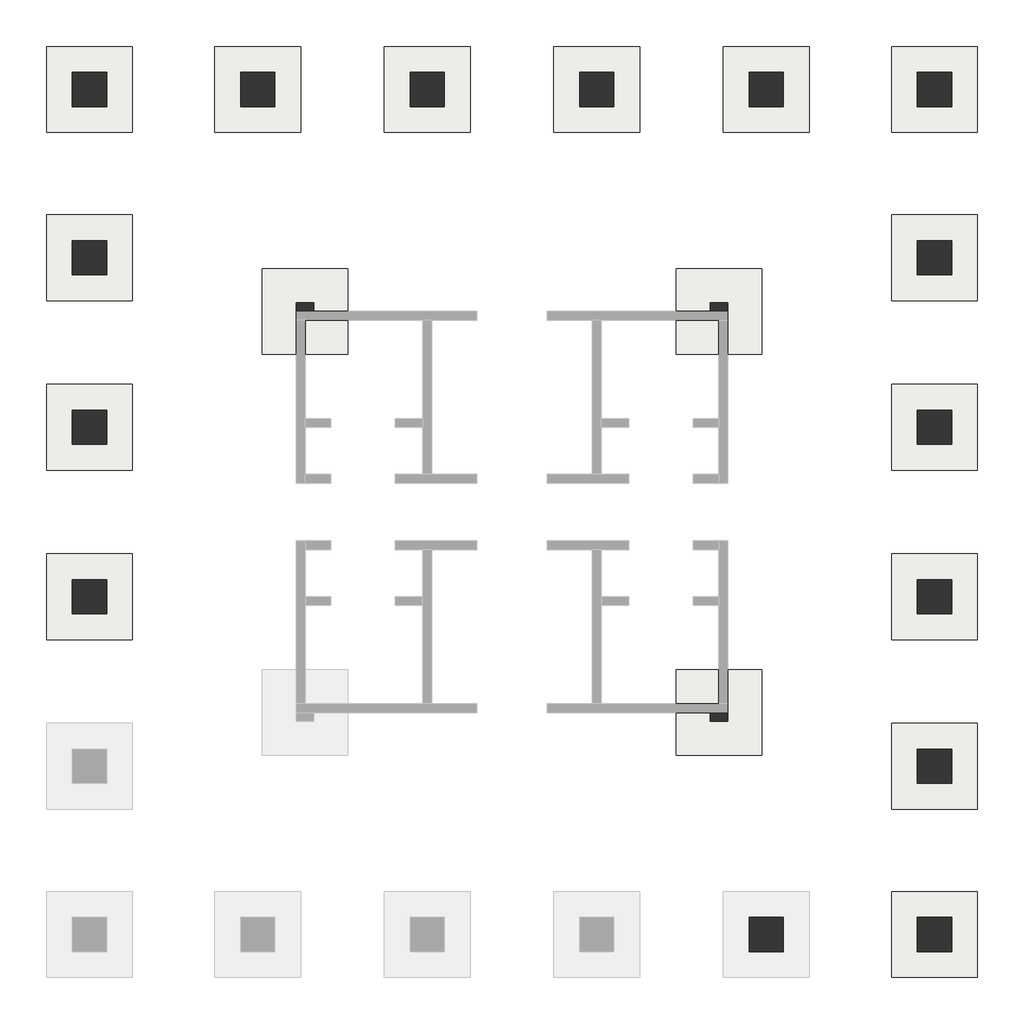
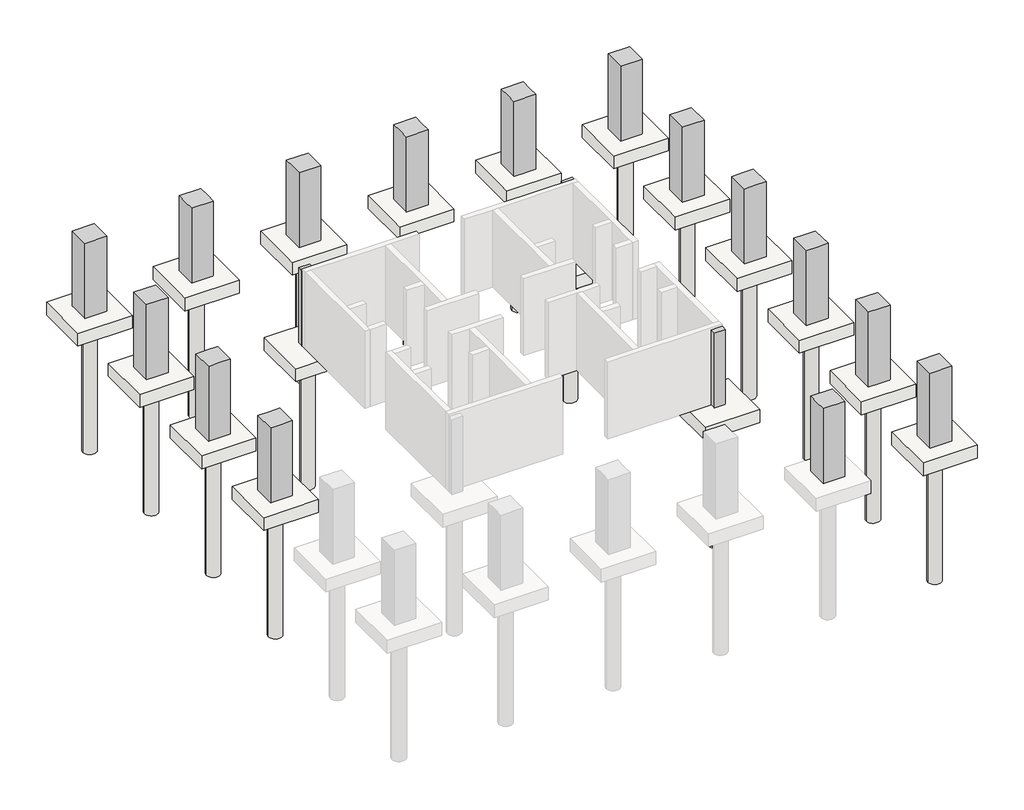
# One storey, part 2 of 2: 34 slabs, 18 columns.
"""IFC4 building model written with IfcOpenShell, lengths in millimetres."""

from ifc_helpers import new_model, si_unit, point, frame, frame_2d, origin, place, context, project, spatial, polyline, circle_curve, trimmed, segment, composite_curve, outline, extrude, faceted_brep, element, save

model = new_model("IFC4")

# Units and contexts
model_context = context("Model", 3, world=origin())
ifc_project = project(units=[si_unit("LENGTHUNIT", "METRE", prefix="MILLI")], contexts=[model_context])

# Site, building, storey
site = spatial("IfcSite", under=ifc_project)
building = spatial("IfcBuilding", under=site)
storey = spatial("IfcBuildingStorey", under=building, Name="基础顶面", Elevation=-2000.0)

# Columns
placement = place(None, origin())
element("IfcColumn", 1, ObjectType="混凝土 - 矩形 - 柱 : Z1-1600x1600", at=placement, inside=storey, context=model_context, shape_type="SweptSolid", body=[
    extrude(outline(polyline([(-12472.6742169, 27051.0498658), (-12472.6742169, 25451.0498658), (-14072.6742169, 25451.0498658), (-14072.6742169, 27051.0498658), (-12472.6742169, 27051.0498658)])), frame((0.0, 0.0, -2000.0), z_axis=(0.0, 0.0, 1.0), x_axis=(1.0, 0.0, 0.0)), (0.0, 0.0, 1.0), 5840.0),
])
element("IfcColumn", 2, ObjectType="混凝土 - 矩形 - 柱 : Z1-1600x1600", at=placement, inside=storey, context=model_context, shape_type="Brep", body=[
    faceted_brep([(-4622.6742169, 27051.0498658, -2000.0), (-4622.6742169, 25451.0498658, -2000.0), (-6222.6742169, 25451.0498658, -2000.0), (-6222.6742169, 27051.0498658, -2000.0), (-4622.6742169, 27051.0498658, 3000.0), (-4622.6742169, 27051.0498658, 3840.0), (-4622.6742169, 26251.0498658, 3840.0), (-4622.6742169, 25451.0498658, 3840.0), (-6222.6742169, 25451.0498658, 3840.0), (-6222.6742169, 26251.0498658, 3840.0), (-6222.6742169, 27051.0498658, 3840.0), (-6222.6742169, 27051.0498658, 3000.0)], [[[0, 1, 2, 3]], [[1, 0, 4, 5, 6, 7]], [[2, 1, 7, 8]], [[3, 2, 8, 9, 10, 11]], [[0, 3, 11, 10, 5, 4]], [[7, 6, 5, 10, 9, 8]]]),
])
element("IfcColumn", 3, ObjectType="混凝土 - 矩形 - 柱 : Z1-1600x1600", at=placement, inside=storey, context=model_context, shape_type="Brep", body=[
    faceted_brep([(-12472.6742169, 19201.0498658, -2000.0), (-12472.6742169, 17601.0498658, -2000.0), (-14072.6742169, 17601.0498658, -2000.0), (-14072.6742169, 19201.0498658, -2000.0), (-12472.6742169, 19201.0498658, 3840.0), (-12472.6742169, 17601.0498658, 3840.0), (-13272.6742169, 17601.0498658, 3840.0), (-14072.6742169, 17601.0498658, 3840.0), (-14072.6742169, 17601.0498658, 3000.0), (-14072.6742169, 19201.0498658, 3840.0), (-14072.6742169, 19201.0498658, 3000.0), (-13272.6742169, 19201.0498658, 3840.0)], [[[0, 1, 2, 3]], [[1, 0, 4, 5]], [[2, 1, 5, 6, 7, 8]], [[3, 2, 8, 7, 9, 10]], [[0, 3, 10, 9, 11, 4]], [[5, 4, 11, 9, 7, 6]]]),
])
element("IfcColumn", 4, ObjectType="混凝土 - 矩形 - 柱 : Z1-1600x1600", at=placement, inside=storey, context=model_context, shape_type="Brep", body=[
    faceted_brep([(-12472.6742169, 11301.0498658, -2000.0), (-12472.6742169, 9701.0498658, -2000.0), (-14072.6742169, 9701.0498658, -2000.0), (-14072.6742169, 11301.0498658, -2000.0), (-12472.6742169, 11301.0498658, 3840.0), (-12472.6742169, 9701.0498658, 3840.0), (-13272.6742169, 9701.0498658, 3840.0), (-14072.6742169, 9701.0498658, 3840.0), (-14072.6742169, 9701.0498658, 3000.0), (-14072.6742169, 11301.0498658, 3840.0), (-14072.6742169, 11301.0498658, 3000.0), (-13272.6742169, 11301.0498658, 3840.0)], [[[0, 1, 2, 3]], [[1, 0, 4, 5]], [[2, 1, 5, 6, 7, 8]], [[3, 2, 8, 7, 9, 10]], [[0, 3, 10, 9, 11, 4]], [[5, 4, 11, 9, 7, 6]]]),
])
element("IfcColumn", 5, ObjectType="混凝土 - 矩形 - 柱 : Z1-1600x1600", at=placement, inside=storey, context=model_context, shape_type="Brep", body=[
    faceted_brep([(-12472.6742169, 3401.0498658, -2000.0), (-12472.6742169, 1801.0498658, -2000.0), (-14072.6742169, 1801.0498658, -2000.0), (-14072.6742169, 3401.0498658, -2000.0), (-12472.6742169, 3401.0498658, 3840.0), (-12472.6742169, 1801.0498658, 3840.0), (-13272.6742169, 1801.0498658, 3840.0), (-14072.6742169, 1801.0498658, 3840.0), (-14072.6742169, 1801.0498658, 3000.0), (-14072.6742169, 3401.0498658, 3840.0), (-14072.6742169, 3401.0498658, 3000.0), (-13272.6742169, 3401.0498658, 3840.0)], [[[0, 1, 2, 3]], [[1, 0, 4, 5]], [[2, 1, 5, 6, 7, 8]], [[3, 2, 8, 7, 9, 10]], [[0, 3, 10, 9, 11, 4]], [[5, 4, 11, 9, 7, 6]]]),
])
element("IfcColumn", 6, ObjectType="混凝土 - 矩形 - 柱 : Z1-1600x1600", at=placement, inside=storey, context=model_context, shape_type="SweptSolid", body=[
    extrude(outline(polyline([(25327.3257831, 27051.0498658), (26927.3257831, 27051.0498658), (26927.3257831, 25451.0498658), (25327.3257831, 25451.0498658), (25327.3257831, 27051.0498658)])), frame((0.0, 0.0, -2000.0), z_axis=(0.0, 0.0, 1.0), x_axis=(1.0, 0.0, 0.0)), (0.0, 0.0, 1.0), 5840.0),
])
element("IfcColumn", 7, ObjectType="混凝土 - 矩形 - 柱 : Z1-1600x1600", at=placement, inside=storey, context=model_context, shape_type="Brep", body=[
    faceted_brep([(25327.3257831, 19201.0498658, -2000.0), (26927.3257831, 19201.0498658, -2000.0), (26927.3257831, 17601.0498658, -2000.0), (25327.3257831, 17601.0498658, -2000.0), (25327.3257831, 17601.0498658, 3840.0), (25327.3257831, 19201.0498658, 3840.0), (26927.3257831, 17601.0498658, 3000.0), (26927.3257831, 17601.0498658, 3840.0), (26127.3257831, 17601.0498658, 3840.0), (26927.3257831, 19201.0498658, 3000.0), (26927.3257831, 19201.0498658, 3840.0), (26127.3257831, 19201.0498658, 3840.0)], [[[0, 1, 2, 3]], [[0, 3, 4, 5]], [[3, 2, 6, 7, 8, 4]], [[2, 1, 9, 10, 7, 6]], [[1, 0, 5, 11, 10, 9]], [[5, 4, 8, 7, 10, 11]]]),
])
element("IfcColumn", 8, ObjectType="混凝土 - 矩形 - 柱 : Z1-1600x1600", at=placement, inside=storey, context=model_context, shape_type="Brep", body=[
    faceted_brep([(25327.3257831, 11301.0498658, -2000.0), (26927.3257831, 11301.0498658, -2000.0), (26927.3257831, 9701.0498658, -2000.0), (25327.3257831, 9701.0498658, -2000.0), (25327.3257831, 9701.0498658, 3840.0), (25327.3257831, 11301.0498658, 3840.0), (26927.3257831, 9701.0498658, 3000.0), (26927.3257831, 9701.0498658, 3840.0), (26127.3257831, 9701.0498658, 3840.0), (26927.3257831, 11301.0498658, 3000.0), (26927.3257831, 11301.0498658, 3840.0), (26127.3257831, 11301.0498658, 3840.0)], [[[0, 1, 2, 3]], [[0, 3, 4, 5]], [[3, 2, 6, 7, 8, 4]], [[2, 1, 9, 10, 7, 6]], [[1, 0, 5, 11, 10, 9]], [[5, 4, 8, 7, 10, 11]]]),
])
element("IfcColumn", 9, ObjectType="混凝土 - 矩形 - 柱 : Z1-1600x1600", at=placement, inside=storey, context=model_context, shape_type="Brep", body=[
    faceted_brep([(25327.3257831, 3401.0498658, -2000.0), (26927.3257831, 3401.0498658, -2000.0), (26927.3257831, 1801.0498658, -2000.0), (25327.3257831, 1801.0498658, -2000.0), (25327.3257831, 1801.0498658, 3840.0), (25327.3257831, 3401.0498658, 3840.0), (26927.3257831, 1801.0498658, 3000.0), (26927.3257831, 1801.0498658, 3840.0), (26127.3257831, 1801.0498658, 3840.0), (26927.3257831, 3401.0498658, 3000.0), (26927.3257831, 3401.0498658, 3840.0), (26127.3257831, 3401.0498658, 3840.0)], [[[0, 1, 2, 3]], [[0, 3, 4, 5]], [[3, 2, 6, 7, 8, 4]], [[2, 1, 9, 10, 7, 6]], [[1, 0, 5, 11, 10, 9]], [[5, 4, 8, 7, 10, 11]]]),
])
element("IfcColumn", 10, ObjectType="混凝土 - 矩形 - 柱 : Z1-1600x1600", at=placement, inside=storey, context=model_context, shape_type="Brep", body=[
    faceted_brep([(25327.3257831, -4498.9501342, -2000.0), (26927.3257831, -4498.9501342, -2000.0), (26927.3257831, -6098.9501342, -2000.0), (25327.3257831, -6098.9501342, -2000.0), (25327.3257831, -6098.9501342, 3840.0), (25327.3257831, -4498.9501342, 3840.0), (26927.3257831, -6098.9501342, 3000.0), (26927.3257831, -6098.9501342, 3840.0), (26127.3257831, -6098.9501342, 3840.0), (26927.3257831, -4498.9501342, 3000.0), (26927.3257831, -4498.9501342, 3840.0), (26127.3257831, -4498.9501342, 3840.0)], [[[0, 1, 2, 3]], [[0, 3, 4, 5]], [[3, 2, 6, 7, 8, 4]], [[2, 1, 9, 10, 7, 6]], [[1, 0, 5, 11, 10, 9]], [[5, 4, 8, 7, 10, 11]]]),
])
element("IfcColumn", 11, ObjectType="混凝土 - 矩形 - 柱 : Z1-1600x1600", at=placement, inside=storey, context=model_context, shape_type="Brep", body=[
    faceted_brep([(25327.3257831, -12348.9501342, -2000.0), (26927.3257831, -12348.9501342, -2000.0), (26927.3257831, -13948.9501342, -2000.0), (25327.3257831, -13948.9501342, -2000.0), (25327.3257831, -13948.9501342, 3840.0), (25327.3257831, -12348.9501342, 3840.0), (26927.3257831, -13948.9501342, 3840.0), (26927.3257831, -12348.9501342, 3840.0), (26927.3257831, -13935.2672073, 3840.0)], [[[0, 1, 2, 3]], [[0, 3, 4, 5]], [[3, 2, 6, 4]], [[2, 1, 7, 8, 6]], [[1, 0, 5, 7]], [[5, 4, 6, 8, 7]]]),
])
element("IfcColumn", 12, ObjectType="混凝土 - 矩形 - 柱 : Z1-1600x1600", at=placement, inside=storey, context=model_context, shape_type="Brep", body=[
    faceted_brep([(3277.3257831, 27051.0498658, -2000.0), (3277.3257831, 25451.0498658, -2000.0), (1677.3257831, 25451.0498658, -2000.0), (1677.3257831, 27051.0498658, -2000.0), (3277.3257831, 27051.0498658, 3000.0), (3277.3257831, 27051.0498658, 3840.0), (3277.3257831, 26251.0498658, 3840.0), (3277.3257831, 25451.0498658, 3840.0), (1677.3257831, 25451.0498658, 3840.0), (1677.3257831, 26251.0498658, 3840.0), (1677.3257831, 27051.0498658, 3840.0), (1677.3257831, 27051.0498658, 3000.0)], [[[0, 1, 2, 3]], [[1, 0, 4, 5, 6, 7]], [[2, 1, 7, 8]], [[3, 2, 8, 9, 10, 11]], [[0, 3, 11, 10, 5, 4]], [[7, 6, 5, 10, 9, 8]]]),
])
element("IfcColumn", 13, ObjectType="混凝土 - 矩形 - 柱 : Z1-1600x1600", at=placement, inside=storey, context=model_context, shape_type="Brep", body=[
    faceted_brep([(11177.3257831, 27051.0498658, -2000.0), (11177.3257831, 25451.0498658, -2000.0), (9577.3257831, 25451.0498658, -2000.0), (9577.3257831, 27051.0498658, -2000.0), (11177.3257831, 27051.0498658, 3000.0), (11177.3257831, 27051.0498658, 3840.0), (11177.3257831, 26251.0498658, 3840.0), (11177.3257831, 25451.0498658, 3840.0), (9577.3257831, 25451.0498658, 3840.0), (9577.3257831, 26251.0498658, 3840.0), (9577.3257831, 27051.0498658, 3840.0), (9577.3257831, 27051.0498658, 3000.0)], [[[0, 1, 2, 3]], [[1, 0, 4, 5, 6, 7]], [[2, 1, 7, 8]], [[3, 2, 8, 9, 10, 11]], [[0, 3, 11, 10, 5, 4]], [[7, 6, 5, 10, 9, 8]]]),
])
element("IfcColumn", 14, ObjectType="混凝土 - 矩形 - 柱 : Z1-1600x1600", at=placement, inside=storey, context=model_context, shape_type="Brep", body=[
    faceted_brep([(19077.3257831, 27051.0498658, -2000.0), (19077.3257831, 25451.0498658, -2000.0), (17477.3257831, 25451.0498658, -2000.0), (17477.3257831, 27051.0498658, -2000.0), (19077.3257831, 27051.0498658, 3000.0), (19077.3257831, 27051.0498658, 3840.0), (19077.3257831, 26251.0498658, 3840.0), (19077.3257831, 25451.0498658, 3840.0), (17477.3257831, 25451.0498658, 3840.0), (17477.3257831, 26251.0498658, 3840.0), (17477.3257831, 27051.0498658, 3840.0), (17477.3257831, 27051.0498658, 3000.0)], [[[0, 1, 2, 3]], [[1, 0, 4, 5, 6, 7]], [[2, 1, 7, 8]], [[3, 2, 8, 9, 10, 11]], [[0, 3, 11, 10, 5, 4]], [[7, 6, 5, 10, 9, 8]]]),
])
element("IfcColumn", 15, ObjectType="混凝土 - 矩形 - 柱 : Z1-1600x1600", at=placement, inside=storey, context=model_context, shape_type="Brep", body=[
    faceted_brep([(19077.3257831, -12348.9501342, -2000.0), (19077.3257831, -13948.9501342, -2000.0), (17477.3257831, -13948.9501342, -2000.0), (17477.3257831, -12348.9501342, -2000.0), (19077.3257831, -12348.9501342, 3840.0), (19077.3257831, -13148.9501342, 3840.0), (19077.3257831, -13948.9501342, 3840.0), (19077.3257831, -13948.9501342, 3000.0), (17477.3257831, -13948.9501342, 3840.0), (17477.3257831, -13948.9501342, 3000.0), (17477.3257831, -13148.9501342, 3840.0), (17477.3257831, -12348.9501342, 3840.0)], [[[0, 1, 2, 3]], [[1, 0, 4, 5, 6, 7]], [[2, 1, 7, 6, 8, 9]], [[3, 2, 9, 8, 10, 11]], [[0, 3, 11, 4]], [[6, 5, 4, 11, 10, 8]]]),
])
element("IfcColumn", 16, ObjectType="混凝土 - 矩形 - 柱 : Z2-800x800", at=placement, inside=storey, context=model_context, shape_type="SweptSolid", body=[
    extrude(outline(polyline([(-3622.6742169, 16301.0498658), (-2822.6742169, 16301.0498658), (-2822.6742169, 15901.0498658), (-3622.6742169, 15901.0498658), (-3622.6742169, 16301.0498658)])), frame((0.0, 0.0, -2000.0), z_axis=(0.0, 0.0, 1.0), x_axis=(1.0, 0.0, 0.0)), (0.0, 0.0, 1.0), 5840.0),
])
element("IfcColumn", 17, ObjectType="混凝土 - 矩形 - 柱 : Z2-800x800", at=placement, inside=storey, context=model_context, shape_type="SweptSolid", body=[
    extrude(outline(polyline([(16477.3257831, -3198.9501342), (15677.3257831, -3198.9501342), (15677.3257831, -2798.9501342), (16477.3257831, -2798.9501342), (16477.3257831, -3198.9501342)])), frame((0.0, 0.0, -2000.0), z_axis=(0.0, 0.0, 1.0), x_axis=(1.0, 0.0, 0.0)), (0.0, 0.0, 1.0), 5840.0),
])
element("IfcColumn", 18, ObjectType="混凝土 - 矩形 - 柱 : Z2-800x800", at=placement, inside=storey, context=model_context, shape_type="SweptSolid", body=[
    extrude(outline(polyline([(15677.3257831, 16301.0498658), (16477.3257831, 16301.0498658), (16477.3257831, 15901.0498658), (15677.3257831, 15901.0498658), (15677.3257831, 16301.0498658)])), frame((0.0, 0.0, -2000.0), z_axis=(0.0, 0.0, 1.0), x_axis=(1.0, 0.0, 0.0)), (0.0, 0.0, 1.0), 5840.0),
])

# Slabs
element("IfcSlab", 19, ObjectType="独立基础 : 基础-4000x4000x1000", at=placement, inside=storey, context=model_context, shape_type="SweptSolid", body=[
    extrude(outline(polyline([(-11272.6742169, 28251.0498658), (-11272.6742169, 24251.0498658), (-15272.6742169, 24251.0498658), (-15272.6742169, 28251.0498658), (-11272.6742169, 28251.0498658)])), frame((0.0, 0.0, -3000.0), z_axis=(0.0, 0.0, 1.0), x_axis=(1.0, 0.0, 0.0)), (0.0, 0.0, 1.0), 1000.0),
])
element("IfcSlab", 20, ObjectType="独立基础 : 基础-4000x4000x1000", at=placement, inside=storey, context=model_context, shape_type="SweptSolid", body=[
    extrude(outline(polyline([(-11272.6742169, 20401.0498658), (-11272.6742169, 16401.0498658), (-15272.6742169, 16401.0498658), (-15272.6742169, 20401.0498658), (-11272.6742169, 20401.0498658)])), frame((0.0, 0.0, -3000.0), z_axis=(0.0, 0.0, 1.0), x_axis=(1.0, 0.0, 0.0)), (0.0, 0.0, 1.0), 1000.0),
])
element("IfcSlab", 21, ObjectType="独立基础 : 基础-4000x4000x1000", at=placement, inside=storey, context=model_context, shape_type="SweptSolid", body=[
    extrude(outline(polyline([(-11272.6742169, 12501.0498658), (-11272.6742169, 8501.0498658), (-15272.6742169, 8501.0498658), (-15272.6742169, 12501.0498658), (-11272.6742169, 12501.0498658)])), frame((0.0, 0.0, -3000.0), z_axis=(0.0, 0.0, 1.0), x_axis=(1.0, 0.0, 0.0)), (0.0, 0.0, 1.0), 1000.0),
])
element("IfcSlab", 22, ObjectType="独立基础 : 基础-4000x4000x1000", at=placement, inside=storey, context=model_context, shape_type="SweptSolid", body=[
    extrude(outline(polyline([(-11272.6742169, 4601.0498658), (-11272.6742169, 601.0498658), (-15272.6742169, 601.0498658), (-15272.6742169, 4601.0498658), (-11272.6742169, 4601.0498658)])), frame((0.0, 0.0, -3000.0), z_axis=(0.0, 0.0, 1.0), x_axis=(1.0, 0.0, 0.0)), (0.0, 0.0, 1.0), 1000.0),
])
element("IfcSlab", 23, ObjectType="独立基础 : 基础-4000x4000x1000", at=placement, inside=storey, context=model_context, shape_type="SweptSolid", body=[
    extrude(outline(polyline([(28127.3257831, -11148.9501342), (28127.3257831, -15148.9501342), (24127.3257831, -15148.9501342), (24127.3257831, -11148.9501342), (28127.3257831, -11148.9501342)])), frame((0.0, 0.0, -3000.0), z_axis=(0.0, 0.0, 1.0), x_axis=(1.0, 0.0, 0.0)), (0.0, 0.0, 1.0), 1000.0),
])
element("IfcSlab", 24, ObjectType="独立基础 : 基础-4000x4000x1000", at=placement, inside=storey, context=model_context, shape_type="SweptSolid", body=[
    extrude(outline(polyline([(-1222.6742169, 17901.0498658), (-1222.6742169, 13901.0498658), (-5222.6742169, 13901.0498658), (-5222.6742169, 17901.0498658), (-1222.6742169, 17901.0498658)])), frame((0.0, 0.0, -3000.0), z_axis=(0.0, 0.0, 1.0), x_axis=(1.0, 0.0, 0.0)), (0.0, 0.0, 1.0), 1000.0),
])
element("IfcSlab", 25, ObjectType="独立基础 : 基础-4000x4000x1000", at=placement, inside=storey, context=model_context, shape_type="SweptSolid", body=[
    extrude(outline(polyline([(18077.3257831, 17901.0498658), (18077.3257831, 13901.0498658), (14077.3257831, 13901.0498658), (14077.3257831, 17901.0498658), (18077.3257831, 17901.0498658)])), frame((0.0, 0.0, -3000.0), z_axis=(0.0, 0.0, 1.0), x_axis=(1.0, 0.0, 0.0)), (0.0, 0.0, 1.0), 1000.0),
])
element("IfcSlab", 26, ObjectType="独立基础 : 基础-4000x4000x1000", at=placement, inside=storey, context=model_context, shape_type="SweptSolid", body=[
    extrude(outline(polyline([(18077.3257831, -798.9501342), (18077.3257831, -4798.9501342), (14077.3257831, -4798.9501342), (14077.3257831, -798.9501342), (18077.3257831, -798.9501342)])), frame((0.0, 0.0, -3000.0), z_axis=(0.0, 0.0, 1.0), x_axis=(1.0, 0.0, 0.0)), (0.0, 0.0, 1.0), 1000.0),
])
element("IfcSlab", 27, ObjectType="独立基础 : 基础-4000x4000x1000", at=placement, inside=storey, context=model_context, shape_type="SweptSolid", body=[
    extrude(outline(polyline([(-3422.6742169, 24251.0498658), (-7422.6742169, 24251.0498658), (-7422.6742169, 28251.0498658), (-3422.6742169, 28251.0498658), (-3422.6742169, 24251.0498658)])), frame((0.0, 0.0, -3000.0), z_axis=(0.0, 0.0, 1.0), x_axis=(1.0, 0.0, 0.0)), (0.0, 0.0, 1.0), 1000.0),
])
element("IfcSlab", 28, ObjectType="独立基础 : 基础-4000x4000x1000", at=placement, inside=storey, context=model_context, shape_type="SweptSolid", body=[
    extrude(outline(polyline([(4477.3257831, 24251.0498658), (477.3257831, 24251.0498658), (477.3257831, 28251.0498658), (4477.3257831, 28251.0498658), (4477.3257831, 24251.0498658)])), frame((0.0, 0.0, -3000.0), z_axis=(0.0, 0.0, 1.0), x_axis=(1.0, 0.0, 0.0)), (0.0, 0.0, 1.0), 1000.0),
])
element("IfcSlab", 29, ObjectType="独立基础 : 基础-4000x4000x1000", at=placement, inside=storey, context=model_context, shape_type="SweptSolid", body=[
    extrude(outline(polyline([(12377.3257831, 24251.0498658), (8377.3257831, 24251.0498658), (8377.3257831, 28251.0498658), (12377.3257831, 28251.0498658), (12377.3257831, 24251.0498658)])), frame((0.0, 0.0, -3000.0), z_axis=(0.0, 0.0, 1.0), x_axis=(1.0, 0.0, 0.0)), (0.0, 0.0, 1.0), 1000.0),
])
element("IfcSlab", 30, ObjectType="独立基础 : 基础-4000x4000x1000", at=placement, inside=storey, context=model_context, shape_type="SweptSolid", body=[
    extrude(outline(polyline([(20277.3257831, 24251.0498658), (16277.3257831, 24251.0498658), (16277.3257831, 28251.0498658), (20277.3257831, 28251.0498658), (20277.3257831, 24251.0498658)])), frame((0.0, 0.0, -3000.0), z_axis=(0.0, 0.0, 1.0), x_axis=(1.0, 0.0, 0.0)), (0.0, 0.0, 1.0), 1000.0),
])
element("IfcSlab", 31, ObjectType="独立基础 : 基础-4000x4000x1000", at=placement, inside=storey, context=model_context, shape_type="SweptSolid", body=[
    extrude(outline(polyline([(28127.3257831, 24251.0498658), (24127.3257831, 24251.0498658), (24127.3257831, 28251.0498658), (28127.3257831, 28251.0498658), (28127.3257831, 24251.0498658)])), frame((0.0, 0.0, -3000.0), z_axis=(0.0, 0.0, 1.0), x_axis=(1.0, 0.0, 0.0)), (0.0, 0.0, 1.0), 1000.0),
])
element("IfcSlab", 32, ObjectType="独立基础 : 基础-4000x4000x1000", at=placement, inside=storey, context=model_context, shape_type="SweptSolid", body=[
    extrude(outline(polyline([(24127.3257831, 20401.0498658), (28127.3257831, 20401.0498658), (28127.3257831, 16401.0498658), (24127.3257831, 16401.0498658), (24127.3257831, 20401.0498658)])), frame((0.0, 0.0, -3000.0), z_axis=(0.0, 0.0, 1.0), x_axis=(1.0, 0.0, 0.0)), (0.0, 0.0, 1.0), 1000.0),
])
element("IfcSlab", 33, ObjectType="独立基础 : 基础-4000x4000x1000", at=placement, inside=storey, context=model_context, shape_type="SweptSolid", body=[
    extrude(outline(polyline([(24127.3257831, 12501.0498658), (28127.3257831, 12501.0498658), (28127.3257831, 8501.0498658), (24127.3257831, 8501.0498658), (24127.3257831, 12501.0498658)])), frame((0.0, 0.0, -3000.0), z_axis=(0.0, 0.0, 1.0), x_axis=(1.0, 0.0, 0.0)), (0.0, 0.0, 1.0), 1000.0),
])
element("IfcSlab", 34, ObjectType="独立基础 : 基础-4000x4000x1000", at=placement, inside=storey, context=model_context, shape_type="SweptSolid", body=[
    extrude(outline(polyline([(24127.3257831, 4601.0498658), (28127.3257831, 4601.0498658), (28127.3257831, 601.0498658), (24127.3257831, 601.0498658), (24127.3257831, 4601.0498658)])), frame((0.0, 0.0, -3000.0), z_axis=(0.0, 0.0, 1.0), x_axis=(1.0, 0.0, 0.0)), (0.0, 0.0, 1.0), 1000.0),
])
element("IfcSlab", 35, ObjectType="独立基础 : 基础-4000x4000x1000", at=placement, inside=storey, context=model_context, shape_type="SweptSolid", body=[
    extrude(outline(polyline([(24127.3257831, -3298.9501342), (28127.3257831, -3298.9501342), (28127.3257831, -7298.9501342), (24127.3257831, -7298.9501342), (24127.3257831, -3298.9501342)])), frame((0.0, 0.0, -3000.0), z_axis=(0.0, 0.0, 1.0), x_axis=(1.0, 0.0, 0.0)), (0.0, 0.0, 1.0), 1000.0),
])
element("IfcSlab", 36, ObjectType="桩 - 混凝土圆形桩 : 桩-1000mm", at=placement, inside=storey, context=model_context, shape_type="SweptSolid", body=[
    extrude(outline(composite_curve([segment(trimmed(circle_curve(frame_2d((-13272.6742169, 26251.0498658)), 500.0), [point((-13772.6742169, 26251.0498658))], [point((-12772.6742169, 26251.0498658))], False, "CARTESIAN"), True, "CONTINUOUS"), segment(trimmed(circle_curve(frame_2d((-13272.6742169, 26251.0498658)), 500.0), [point((-12772.6742169, 26251.0498658))], [point((-13772.6742169, 26251.0498658))], False, "CARTESIAN"), True, "CONTINUOUS")], self_intersect=False)), frame((0.0, 0.0, -13000.0), z_axis=(0.0, 0.0, 1.0), x_axis=(1.0, 0.0, 0.0)), (0.0, 0.0, 1.0), 10000.0),
])
element("IfcSlab", 37, ObjectType="桩 - 混凝土圆形桩 : 桩-1000mm", at=placement, inside=storey, context=model_context, shape_type="SweptSolid", body=[
    extrude(outline(composite_curve([segment(trimmed(circle_curve(frame_2d((-5422.6742169, 26251.0498658)), 500.0), [point((-5922.6742169, 26251.0498658))], [point((-4922.6742169, 26251.0498658))], False, "CARTESIAN"), True, "CONTINUOUS"), segment(trimmed(circle_curve(frame_2d((-5422.6742169, 26251.0498658)), 500.0), [point((-4922.6742169, 26251.0498658))], [point((-5922.6742169, 26251.0498658))], False, "CARTESIAN"), True, "CONTINUOUS")], self_intersect=False)), frame((0.0, 0.0, -13000.0), z_axis=(0.0, 0.0, 1.0), x_axis=(1.0, 0.0, 0.0)), (0.0, 0.0, 1.0), 10000.0),
])
element("IfcSlab", 38, ObjectType="桩 - 混凝土圆形桩 : 桩-1000mm", at=placement, inside=storey, context=model_context, shape_type="SweptSolid", body=[
    extrude(outline(composite_curve([segment(trimmed(circle_curve(frame_2d((2477.3257831, 26251.0498658)), 500.0), [point((1977.3257831, 26251.0498658))], [point((2977.3257831, 26251.0498658))], False, "CARTESIAN"), True, "CONTINUOUS"), segment(trimmed(circle_curve(frame_2d((2477.3257831, 26251.0498658)), 500.0), [point((2977.3257831, 26251.0498658))], [point((1977.3257831, 26251.0498658))], False, "CARTESIAN"), True, "CONTINUOUS")], self_intersect=False)), frame((0.0, 0.0, -13000.0), z_axis=(0.0, 0.0, 1.0), x_axis=(1.0, 0.0, 0.0)), (0.0, 0.0, 1.0), 10000.0),
])
element("IfcSlab", 39, ObjectType="桩 - 混凝土圆形桩 : 桩-1000mm", at=placement, inside=storey, context=model_context, shape_type="SweptSolid", body=[
    extrude(outline(composite_curve([segment(trimmed(circle_curve(frame_2d((10377.3257831, 26251.0498658)), 500.0), [point((9877.3257831, 26251.0498658))], [point((10877.3257831, 26251.0498658))], False, "CARTESIAN"), True, "CONTINUOUS"), segment(trimmed(circle_curve(frame_2d((10377.3257831, 26251.0498658)), 500.0), [point((10877.3257831, 26251.0498658))], [point((9877.3257831, 26251.0498658))], False, "CARTESIAN"), True, "CONTINUOUS")], self_intersect=False)), frame((0.0, 0.0, -13000.0), z_axis=(0.0, 0.0, 1.0), x_axis=(1.0, 0.0, 0.0)), (0.0, 0.0, 1.0), 10000.0),
])
element("IfcSlab", 40, ObjectType="桩 - 混凝土圆形桩 : 桩-1000mm", at=placement, inside=storey, context=model_context, shape_type="SweptSolid", body=[
    extrude(outline(composite_curve([segment(trimmed(circle_curve(frame_2d((18277.3257831, 26251.0498658)), 500.0), [point((17777.3257831, 26251.0498658))], [point((18777.3257831, 26251.0498658))], False, "CARTESIAN"), True, "CONTINUOUS"), segment(trimmed(circle_curve(frame_2d((18277.3257831, 26251.0498658)), 500.0), [point((18777.3257831, 26251.0498658))], [point((17777.3257831, 26251.0498658))], False, "CARTESIAN"), True, "CONTINUOUS")], self_intersect=False)), frame((0.0, 0.0, -13000.0), z_axis=(0.0, 0.0, 1.0), x_axis=(1.0, 0.0, 0.0)), (0.0, 0.0, 1.0), 10000.0),
])
element("IfcSlab", 41, ObjectType="桩 - 混凝土圆形桩 : 桩-1000mm", at=placement, inside=storey, context=model_context, shape_type="SweptSolid", body=[
    extrude(outline(composite_curve([segment(trimmed(circle_curve(frame_2d((26127.3257831, 26251.0498658)), 500.0), [point((25627.3257831, 26251.0498658))], [point((26627.3257831, 26251.0498658))], False, "CARTESIAN"), True, "CONTINUOUS"), segment(trimmed(circle_curve(frame_2d((26127.3257831, 26251.0498658)), 500.0), [point((26627.3257831, 26251.0498658))], [point((25627.3257831, 26251.0498658))], False, "CARTESIAN"), True, "CONTINUOUS")], self_intersect=False)), frame((0.0, 0.0, -13000.0), z_axis=(0.0, 0.0, 1.0), x_axis=(1.0, 0.0, 0.0)), (0.0, 0.0, 1.0), 10000.0),
])
element("IfcSlab", 42, ObjectType="桩 - 混凝土圆形桩 : 桩-1000mm", at=placement, inside=storey, context=model_context, shape_type="SweptSolid", body=[
    extrude(outline(composite_curve([segment(trimmed(circle_curve(frame_2d((-13272.6742169, 18401.0498658)), 500.0), [point((-13772.6742169, 18401.0498658))], [point((-12772.6742169, 18401.0498658))], False, "CARTESIAN"), True, "CONTINUOUS"), segment(trimmed(circle_curve(frame_2d((-13272.6742169, 18401.0498658)), 500.0), [point((-12772.6742169, 18401.0498658))], [point((-13772.6742169, 18401.0498658))], False, "CARTESIAN"), True, "CONTINUOUS")], self_intersect=False)), frame((0.0, 0.0, -13000.0), z_axis=(0.0, 0.0, 1.0), x_axis=(1.0, 0.0, 0.0)), (0.0, 0.0, 1.0), 10000.0),
])
element("IfcSlab", 43, ObjectType="桩 - 混凝土圆形桩 : 桩-1000mm", at=placement, inside=storey, context=model_context, shape_type="SweptSolid", body=[
    extrude(outline(composite_curve([segment(trimmed(circle_curve(frame_2d((-13272.6742169, 10501.0498658)), 500.0), [point((-13772.6742169, 10501.0498658))], [point((-12772.6742169, 10501.0498658))], False, "CARTESIAN"), True, "CONTINUOUS"), segment(trimmed(circle_curve(frame_2d((-13272.6742169, 10501.0498658)), 500.0), [point((-12772.6742169, 10501.0498658))], [point((-13772.6742169, 10501.0498658))], False, "CARTESIAN"), True, "CONTINUOUS")], self_intersect=False)), frame((0.0, 0.0, -13000.0), z_axis=(0.0, 0.0, 1.0), x_axis=(1.0, 0.0, 0.0)), (0.0, 0.0, 1.0), 10000.0),
])
element("IfcSlab", 44, ObjectType="桩 - 混凝土圆形桩 : 桩-1000mm", at=placement, inside=storey, context=model_context, shape_type="SweptSolid", body=[
    extrude(outline(composite_curve([segment(trimmed(circle_curve(frame_2d((-13272.6742169, 2601.0498658)), 500.0), [point((-13772.6742169, 2601.0498658))], [point((-12772.6742169, 2601.0498658))], False, "CARTESIAN"), True, "CONTINUOUS"), segment(trimmed(circle_curve(frame_2d((-13272.6742169, 2601.0498658)), 500.0), [point((-12772.6742169, 2601.0498658))], [point((-13772.6742169, 2601.0498658))], False, "CARTESIAN"), True, "CONTINUOUS")], self_intersect=False)), frame((0.0, 0.0, -13000.0), z_axis=(0.0, 0.0, 1.0), x_axis=(1.0, 0.0, 0.0)), (0.0, 0.0, 1.0), 10000.0),
])
element("IfcSlab", 45, ObjectType="桩 - 混凝土圆形桩 : 桩-1000mm", at=placement, inside=storey, context=model_context, shape_type="SweptSolid", body=[
    extrude(outline(composite_curve([segment(trimmed(circle_curve(frame_2d((-3222.6742169, 15901.0498658)), 500.0), [point((-3722.6742169, 15901.0498658))], [point((-2722.6742169, 15901.0498658))], False, "CARTESIAN"), True, "CONTINUOUS"), segment(trimmed(circle_curve(frame_2d((-3222.6742169, 15901.0498658)), 500.0), [point((-2722.6742169, 15901.0498658))], [point((-3722.6742169, 15901.0498658))], False, "CARTESIAN"), True, "CONTINUOUS")], self_intersect=False)), frame((0.0, 0.0, -13000.0), z_axis=(0.0, 0.0, 1.0), x_axis=(1.0, 0.0, 0.0)), (0.0, 0.0, 1.0), 10000.0),
])
element("IfcSlab", 46, ObjectType="桩 - 混凝土圆形桩 : 桩-1000mm", at=placement, inside=storey, context=model_context, shape_type="SweptSolid", body=[
    extrude(outline(composite_curve([segment(trimmed(circle_curve(frame_2d((26127.3257831, -13148.9501342)), 500.0), [point((26627.3257831, -13148.9501342))], [point((25627.3257831, -13148.9501342))], False, "CARTESIAN"), True, "CONTINUOUS"), segment(trimmed(circle_curve(frame_2d((26127.3257831, -13148.9501342)), 500.0), [point((25627.3257831, -13148.9501342))], [point((26627.3257831, -13148.9501342))], False, "CARTESIAN"), True, "CONTINUOUS")], self_intersect=False)), frame((0.0, 0.0, -13000.0), z_axis=(0.0, 0.0, 1.0), x_axis=(1.0, 0.0, 0.0)), (0.0, 0.0, 1.0), 10000.0),
])
element("IfcSlab", 47, ObjectType="桩 - 混凝土圆形桩 : 桩-1000mm", at=placement, inside=storey, context=model_context, shape_type="SweptSolid", body=[
    extrude(outline(composite_curve([segment(trimmed(circle_curve(frame_2d((26127.3257831, 18401.0498658)), 500.0), [point((25627.3257831, 18401.0498658))], [point((26627.3257831, 18401.0498658))], False, "CARTESIAN"), True, "CONTINUOUS"), segment(trimmed(circle_curve(frame_2d((26127.3257831, 18401.0498658)), 500.0), [point((26627.3257831, 18401.0498658))], [point((25627.3257831, 18401.0498658))], False, "CARTESIAN"), True, "CONTINUOUS")], self_intersect=False)), frame((0.0, 0.0, -13000.0), z_axis=(0.0, 0.0, 1.0), x_axis=(1.0, 0.0, 0.0)), (0.0, 0.0, 1.0), 10000.0),
])
element("IfcSlab", 48, ObjectType="桩 - 混凝土圆形桩 : 桩-1000mm", at=placement, inside=storey, context=model_context, shape_type="SweptSolid", body=[
    extrude(outline(composite_curve([segment(trimmed(circle_curve(frame_2d((26127.3257831, 10501.0498658)), 500.0), [point((25627.3257831, 10501.0498658))], [point((26627.3257831, 10501.0498658))], False, "CARTESIAN"), True, "CONTINUOUS"), segment(trimmed(circle_curve(frame_2d((26127.3257831, 10501.0498658)), 500.0), [point((26627.3257831, 10501.0498658))], [point((25627.3257831, 10501.0498658))], False, "CARTESIAN"), True, "CONTINUOUS")], self_intersect=False)), frame((0.0, 0.0, -13000.0), z_axis=(0.0, 0.0, 1.0), x_axis=(1.0, 0.0, 0.0)), (0.0, 0.0, 1.0), 10000.0),
])
element("IfcSlab", 49, ObjectType="桩 - 混凝土圆形桩 : 桩-1000mm", at=placement, inside=storey, context=model_context, shape_type="SweptSolid", body=[
    extrude(outline(composite_curve([segment(trimmed(circle_curve(frame_2d((26127.3257831, 2601.0498658)), 500.0), [point((25627.3257831, 2601.0498658))], [point((26627.3257831, 2601.0498658))], False, "CARTESIAN"), True, "CONTINUOUS"), segment(trimmed(circle_curve(frame_2d((26127.3257831, 2601.0498658)), 500.0), [point((26627.3257831, 2601.0498658))], [point((25627.3257831, 2601.0498658))], False, "CARTESIAN"), True, "CONTINUOUS")], self_intersect=False)), frame((0.0, 0.0, -13000.0), z_axis=(0.0, 0.0, 1.0), x_axis=(1.0, 0.0, 0.0)), (0.0, 0.0, 1.0), 10000.0),
])
element("IfcSlab", 50, ObjectType="桩 - 混凝土圆形桩 : 桩-1000mm", at=placement, inside=storey, context=model_context, shape_type="SweptSolid", body=[
    extrude(outline(composite_curve([segment(trimmed(circle_curve(frame_2d((26127.3257831, -5298.9501342)), 500.0), [point((25627.3257831, -5298.9501342))], [point((26627.3257831, -5298.9501342))], False, "CARTESIAN"), True, "CONTINUOUS"), segment(trimmed(circle_curve(frame_2d((26127.3257831, -5298.9501342)), 500.0), [point((26627.3257831, -5298.9501342))], [point((25627.3257831, -5298.9501342))], False, "CARTESIAN"), True, "CONTINUOUS")], self_intersect=False)), frame((0.0, 0.0, -13000.0), z_axis=(0.0, 0.0, 1.0), x_axis=(1.0, 0.0, 0.0)), (0.0, 0.0, 1.0), 10000.0),
])
element("IfcSlab", 51, ObjectType="桩 - 混凝土圆形桩 : 桩-1000mm", at=placement, inside=storey, context=model_context, shape_type="SweptSolid", body=[
    extrude(outline(composite_curve([segment(trimmed(circle_curve(frame_2d((16077.3257831, -2798.9501342)), 500.0), [point((15577.3257831, -2798.9501342))], [point((16577.3257831, -2798.9501342))], False, "CARTESIAN"), True, "CONTINUOUS"), segment(trimmed(circle_curve(frame_2d((16077.3257831, -2798.9501342)), 500.0), [point((16577.3257831, -2798.9501342))], [point((15577.3257831, -2798.9501342))], False, "CARTESIAN"), True, "CONTINUOUS")], self_intersect=False)), frame((0.0, 0.0, -13000.0), z_axis=(0.0, 0.0, 1.0), x_axis=(1.0, 0.0, 0.0)), (0.0, 0.0, 1.0), 10000.0),
])
element("IfcSlab", 52, ObjectType="桩 - 混凝土圆形桩 : 桩-1000mm", at=placement, inside=storey, context=model_context, shape_type="SweptSolid", body=[
    extrude(outline(composite_curve([segment(trimmed(circle_curve(frame_2d((16077.3257831, 15901.0498658)), 500.0), [point((15577.3257831, 15901.0498658))], [point((16577.3257831, 15901.0498658))], False, "CARTESIAN"), True, "CONTINUOUS"), segment(trimmed(circle_curve(frame_2d((16077.3257831, 15901.0498658)), 500.0), [point((16577.3257831, 15901.0498658))], [point((15577.3257831, 15901.0498658))], False, "CARTESIAN"), True, "CONTINUOUS")], self_intersect=False)), frame((0.0, 0.0, -13000.0), z_axis=(0.0, 0.0, 1.0), x_axis=(1.0, 0.0, 0.0)), (0.0, 0.0, 1.0), 10000.0),
])

save(model, "model.ifc")
